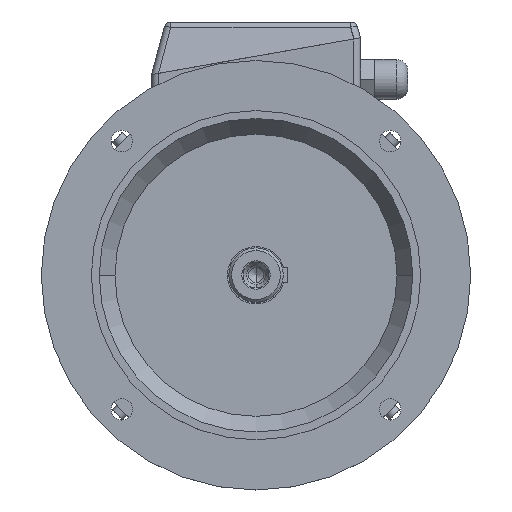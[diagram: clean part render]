
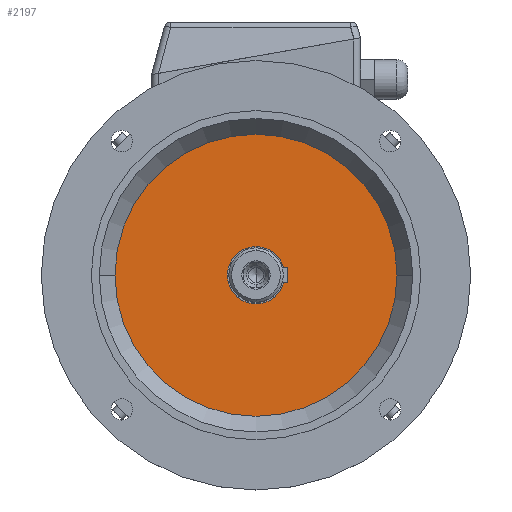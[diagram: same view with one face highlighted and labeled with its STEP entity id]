
A CAD part, top view. The second image highlights one B-rep face of the part: STEP entity #2197.
In plain terms, the highlighted planar face has unit normal (0, 0, 1).
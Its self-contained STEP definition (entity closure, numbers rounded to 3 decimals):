
#776 = VERTEX_POINT ( 'NONE', #13705 ) ;
#1046 = VERTEX_POINT ( 'NONE', #13861 ) ;
#1304 = EDGE_CURVE ( 'NONE', #1046, #776, #14022, .T. ) ;
#2040 = EDGE_LOOP ( 'NONE', ( #12124, #11738 ) ) ;
#2197 = ADVANCED_FACE ( 'NONE', ( #14731 ), #14732, .T. ) ;
#4048 = EDGE_CURVE ( 'NONE', #776, #1046, #16188, .T. ) ;
#11738 = ORIENTED_EDGE ( 'NONE', *, *, #4048, .F. ) ;
#12124 = ORIENTED_EDGE ( 'NONE', *, *, #1304, .F. ) ;
#13705 = CARTESIAN_POINT ( 'NONE',  ( -98.5, 0., 47. ) ) ;
#13861 = CARTESIAN_POINT ( 'NONE',  ( 98.5, 0., 47. ) ) ;
#14022 = CIRCLE ( 'NONE', #14023, 98.5 ) ;
#14023 = AXIS2_PLACEMENT_3D ( 'NONE', #14024, #14025, #14026 ) ;
#14024 = CARTESIAN_POINT ( 'NONE',  ( 0., 0., 47. ) ) ;
#14025 = DIRECTION ( 'NONE',  ( 0., 0., -1. ) ) ;
#14026 = DIRECTION ( 'NONE',  ( -1., 0., 0. ) ) ;
#14731 = FACE_OUTER_BOUND ( 'NONE', #2040, .T. ) ;
#14732 = PLANE ( 'NONE',  #14733 ) ;
#14733 = AXIS2_PLACEMENT_3D ( 'NONE', #14734, #14735, #14736 ) ;
#14734 = CARTESIAN_POINT ( 'NONE',  ( 0., 98.5, 47. ) ) ;
#14735 = DIRECTION ( 'NONE',  ( 0., 0., 1. ) ) ;
#14736 = DIRECTION ( 'NONE',  ( 1., 0., 0. ) ) ;
#16188 = CIRCLE ( 'NONE', #16189, 98.5 ) ;
#16189 = AXIS2_PLACEMENT_3D ( 'NONE', #16190, #16191, #16192 ) ;
#16190 = CARTESIAN_POINT ( 'NONE',  ( 0., 0., 47. ) ) ;
#16191 = DIRECTION ( 'NONE',  ( 0., 0., -1. ) ) ;
#16192 = DIRECTION ( 'NONE',  ( -1., 0., 0. ) ) ;
